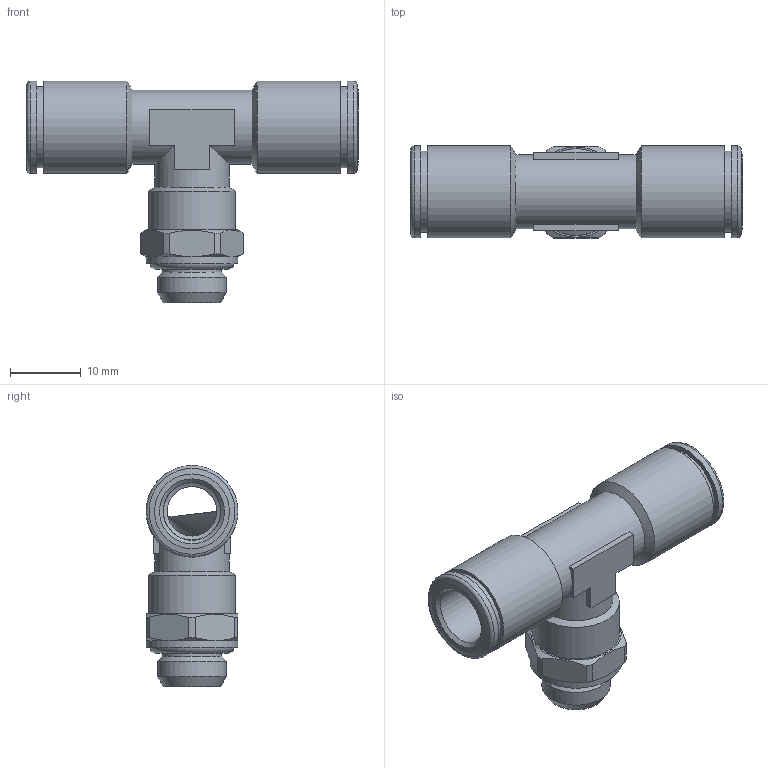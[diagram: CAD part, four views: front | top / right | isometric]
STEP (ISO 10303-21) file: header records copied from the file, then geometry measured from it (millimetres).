
FILE_DESCRIPTION(/* description */ (''),/* implementation_level */ '2;1');
FILE_NAME(/* name */ '202005_STX_20_8_18_17.09.15',/* time_stamp */ '2015-09-17T08:39:29+02:00',/* author */ (''),/* organization */ (''),/* preprocessor_version */ 'ST-DEVELOPER v14',/* originating_system */ 'HiCAD 2013 1802.4 Build 509',/* authorisation */ '');
FILE_SCHEMA (('AUTOMOTIVE_DESIGN { 1 0 10303 214 1 1 1 1 }'));
Length unit declared in the file: millimetre
Products named in the file (6): Root; OR 7.2X1.9; 214602-1-N2_Gew-Stck._1-8_1-8_AISI; DR8-1_NEU; R202005-ES-N1-N2
Assembly tree (5 placements, depth 2):
  Root
    OR 7.2X1.9
    214602-1-N2_Gew-Stck._1-8_1-8_AISI
    DR8-1_NEU
    DR8-1_NEU
    R202005-ES-N1-N2
Bounding box: 47 x 13 x 31.3 mm (x, y, z)
Volume: 4102 mm3; surface area: 6413.8 mm2
Topology: 5 solids, 5 shells, 115 faces, 247 edges, 149 vertices
Faces by surface type: plane 42, cylinder 35, cone 33, torus 5
Full cylindrical faces by diameter (mm): 5.5 x1, 7 x2, 8.1 x2, 8.2 x2, 8.3 x1, 9 x2, 9.728 x1, 10.1 x4, 10.5 x2, 11 x2, 11.5 x2, 11.6 x2, 12.3 x1, 13 x5
Entity records: 4738 total; most frequent: DIRECTION 548, CARTESIAN_POINT 441, PRESENTATION_STYLE_ASSIGNMENT 373, OVER_RIDING_STYLED_ITEM 368, COLOUR_RGB 355, DRAUGHTING_PRE_DEFINED_CURVE_FONT 352, CURVE_STYLE 352, ORIENTED_EDGE 352
